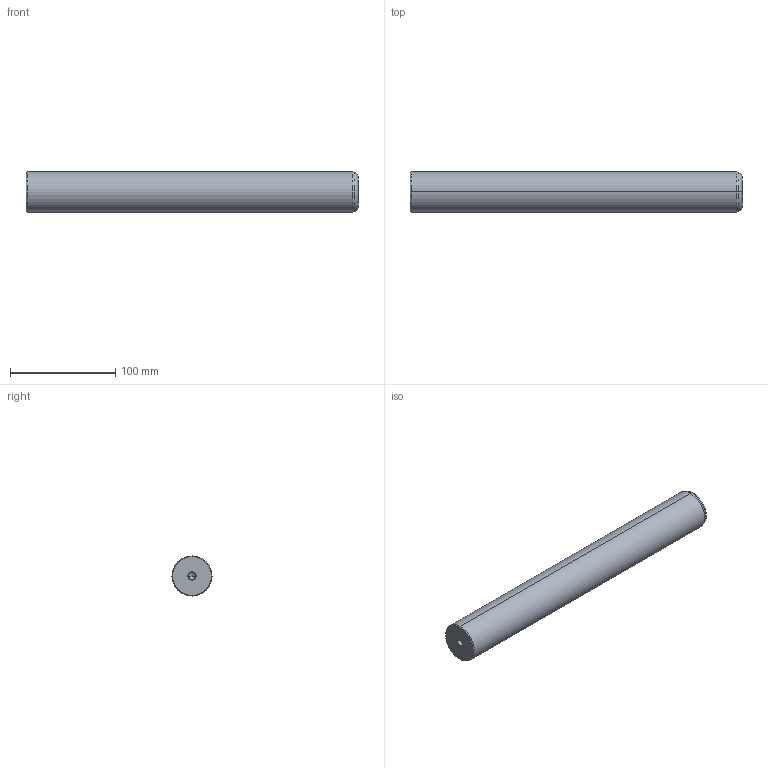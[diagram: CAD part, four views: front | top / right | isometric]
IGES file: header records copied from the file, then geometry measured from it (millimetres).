
Start section: START RECORD GO HERE.
Global section: file name: 720-38x315.igs; native system: DASSAULT SYSTEMES CATIA V5 R20 - www.3ds.com; preprocessor: CATIA Version 5 Release 20 ; author: Utente; organization: NB04-ASUS; date: 20210101.130316; units: millimetre
Bounding box: 315 x 38 x 38 mm (x, y, z)
Surface area: 40559.6 mm2 (no closed solid volume)
Topology: 0 solids, 0 shells, 22 faces, 120 edges, 116 vertices
Faces by surface type: revolution 20, plane 2
